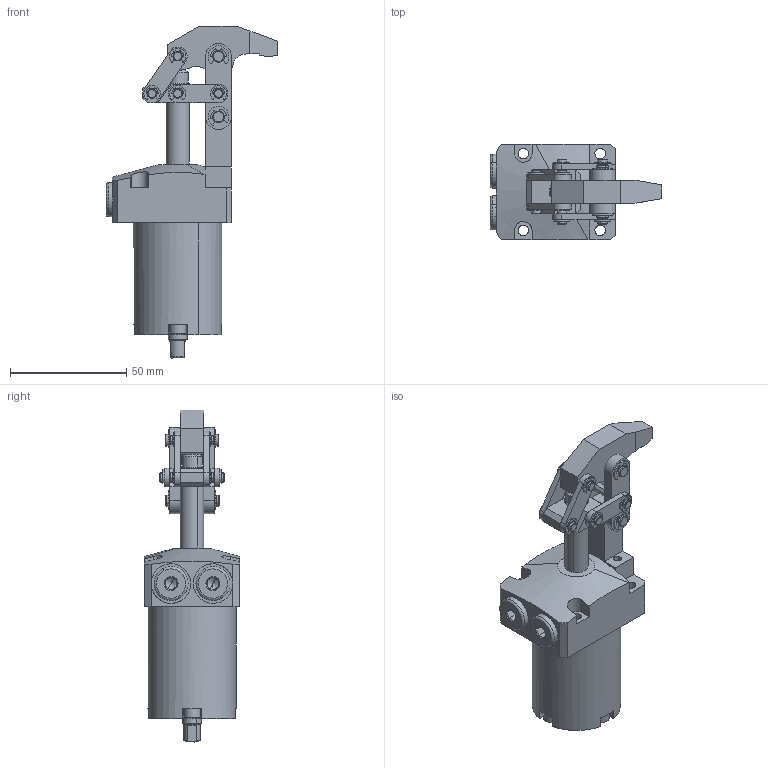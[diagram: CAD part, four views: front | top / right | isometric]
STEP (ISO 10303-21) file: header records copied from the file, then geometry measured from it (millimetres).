
FILE_DESCRIPTION(('CATIA V5 STEP Exchange'),'2;1');
FILE_NAME('\\kjf-102\KJF_TC\Hydraulic_Clamp\Standard\HINGE_CLAMP\MLC-2038G_-\배포도면\MLC-2038GD_-.stp','2026-03-16T06:53:00+00:00',('none'),('none'),'CATIA Version 5 Release 19 SP 9 (IN-10)','CATIA V5 STEP AP203','none');
FILE_SCHEMA(('CONFIG_CONTROL_DESIGN'));
Length unit declared in the file: millimetre
Products named in the file (1): MLC-2038GD_-
Assembly tree (38 placements, depth 2):
  MLC-2038GD_-
    #58
    #1183
    #2595
    #4840
    #5556  x2
    #5941  x2
    #6261  x2
    #6581
    #7631
    #8561  x2
    #9045  x2
    #9529  x2
    #10013  x2
    #10906  x8
    #11689  x4
    #12412  x2
    #14362  x4
Bounding box: 73.75 x 41 x 142.5 mm (x, y, z)
Volume: 108870.3 mm3; surface area: 49431.9 mm2
Topology: 42 solids, 42 shells, 1032 faces, 2478 edges, 1583 vertices
Faces by surface type: cylinder 480, plane 356, cone 122, torus 70, bspline 4
Entity records: 15198 total; most frequent: CARTESIAN_POINT 3376, ORIENTED_EDGE 2440, DIRECTION 2019, EDGE_CURVE 1220, AXIS2_PLACEMENT_3D 1015, VERTEX_POINT 778, EDGE_LOOP 618, CIRCLE 579
